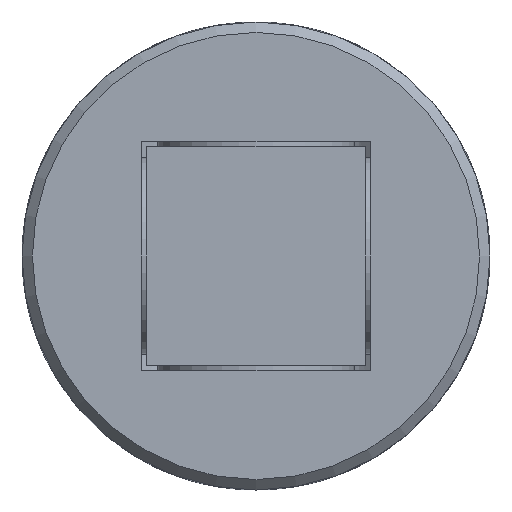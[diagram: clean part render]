
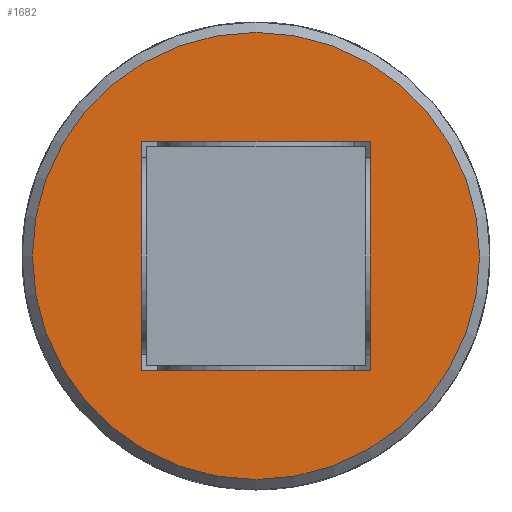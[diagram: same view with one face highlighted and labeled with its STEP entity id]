
A CAD part, front view. The second image highlights one B-rep face of the part: STEP entity #1682.
In plain terms, the highlighted planar face has unit normal (0, -1, 0).
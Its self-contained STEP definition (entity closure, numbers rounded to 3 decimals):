
#112=LINE('',#3128,#176);
#116=LINE('',#3153,#180);
#122=LINE('',#3195,#186);
#125=LINE('',#3217,#189);
#176=VECTOR('',#2169,22.);
#180=VECTOR('',#2177,22.);
#186=VECTOR('',#2185,22.);
#189=VECTOR('',#2192,22.);
#240=PLANE('',#1848);
#383=FACE_BOUND('',#608,.T.);
#469=FACE_OUTER_BOUND('',#607,.T.);
#607=EDGE_LOOP('',(#1467));
#608=EDGE_LOOP('',(#1468,#1469,#1470,#1471));
#696=CIRCLE('',#1846,21.5);
#823=VERTEX_POINT('',#3125);
#824=VERTEX_POINT('',#3127);
#830=VERTEX_POINT('',#3152);
#839=VERTEX_POINT('',#3193);
#846=VERTEX_POINT('',#3258);
#1029=EDGE_CURVE('',#824,#823,#112,.T.);
#1036=EDGE_CURVE('',#830,#824,#116,.T.);
#1046=EDGE_CURVE('',#823,#839,#122,.T.);
#1052=EDGE_CURVE('',#839,#830,#125,.T.);
#1063=EDGE_CURVE('',#846,#846,#696,.T.);
#1467=ORIENTED_EDGE('',*,*,#1063,.F.);
#1468=ORIENTED_EDGE('',*,*,#1029,.T.);
#1469=ORIENTED_EDGE('',*,*,#1046,.T.);
#1470=ORIENTED_EDGE('',*,*,#1052,.T.);
#1471=ORIENTED_EDGE('',*,*,#1036,.T.);
#1682=ADVANCED_FACE('',(#469,#383),#240,.F.);
#1846=AXIS2_PLACEMENT_3D('',#3259,#2221,#2222);
#1848=AXIS2_PLACEMENT_3D('',#3443,#2229,#2230);
#2169=DIRECTION('',(0.,0.,-1.));
#2177=DIRECTION('',(1.,0.,0.));
#2185=DIRECTION('',(-1.,0.,0.));
#2192=DIRECTION('',(0.,0.,1.));
#2221=DIRECTION('center_axis',(0.,1.,0.));
#2222=DIRECTION('ref_axis',(1.,0.,0.));
#2229=DIRECTION('center_axis',(0.,1.,0.));
#2230=DIRECTION('ref_axis',(0.,0.,1.));
#3125=CARTESIAN_POINT('',(11.,-58.,-11.));
#3127=CARTESIAN_POINT('',(11.,-58.,11.));
#3128=CARTESIAN_POINT('',(11.,-58.,5.5));
#3152=CARTESIAN_POINT('',(-11.,-58.,11.));
#3153=CARTESIAN_POINT('',(-5.5,-58.,11.));
#3193=CARTESIAN_POINT('',(-11.,-58.,-11.));
#3195=CARTESIAN_POINT('',(5.5,-58.,-11.));
#3217=CARTESIAN_POINT('',(-11.,-58.,-5.5));
#3258=CARTESIAN_POINT('',(-21.5,-58.,0.));
#3259=CARTESIAN_POINT('Origin',(0.,-58.,0.));
#3443=CARTESIAN_POINT('Origin',(0.,-58.,0.));
